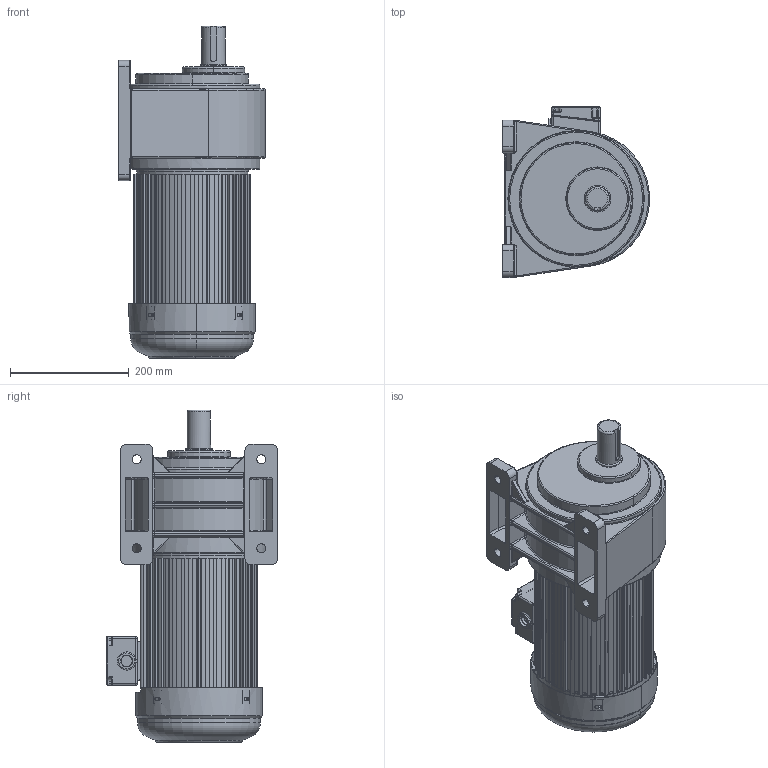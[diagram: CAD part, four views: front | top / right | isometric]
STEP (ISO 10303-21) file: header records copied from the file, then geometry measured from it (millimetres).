
FILE_DESCRIPTION(('HOOPS Exchange Step'),'2;1');
FILE_NAME('D:/conver/TZT.New3D001/output/3fcb5392-0eb1-4d03-a755-aef45c701b9a/ZHN3700-S(Z)B-3K-12.5K(15K-100K)(50轴）.step','2026-07-28T23:00:57+08:00',('SYSTEM'),('Unknown organisation'),'HOOPS Exchange 2024.3','HOOPS Exchange','Unknown authorisation');
FILE_SCHEMA( ('AP203_CONFIGURATION_CONTROLLED_3D_DESIGN_OF_MECHANICAL_PARTS_AND_ASSEMBLIES_MIM_LF') );
Length unit declared in the file: millimetre
Products named in the file (1): AdmiE513rs3f
Bounding box: 247.6 x 288.5 x 559.5 mm (x, y, z)
Volume: 15087359.5 mm3; surface area: 926346.6 mm2
Topology: 1 solids, 3 shells, 1851 faces, 5132 edges, 3274 vertices
Faces by surface type: plane 936, cylinder 683, torus 124, bspline 60, sphere 28, cone 20
Full cylindrical faces by diameter (mm): 40 x1, 45 x1, 180.5 x1, 228 x2
Entity records: 64501 total; most frequent: CARTESIAN_POINT 16250, ORIENTED_EDGE 10180, DIRECTION 9915, EDGE_CURVE 5090, VECTOR 3345, LINE 3345, AXIS2_PLACEMENT_3D 3285, VERTEX_POINT 3278
